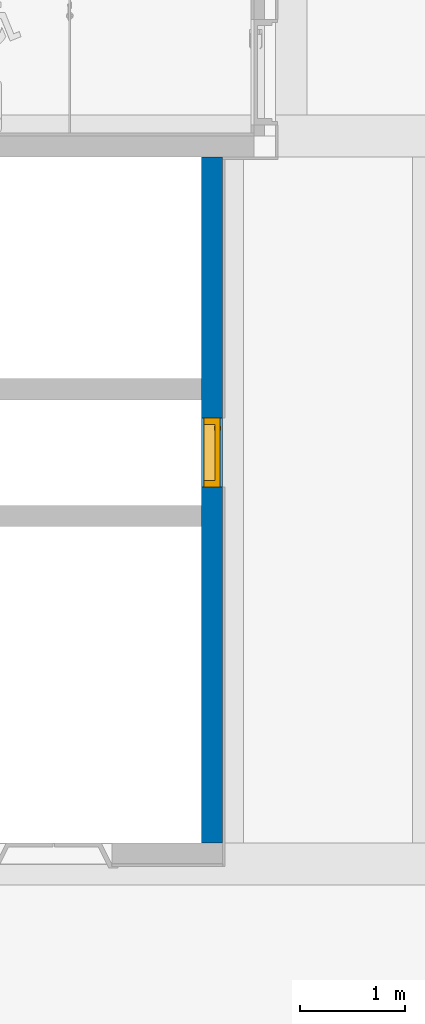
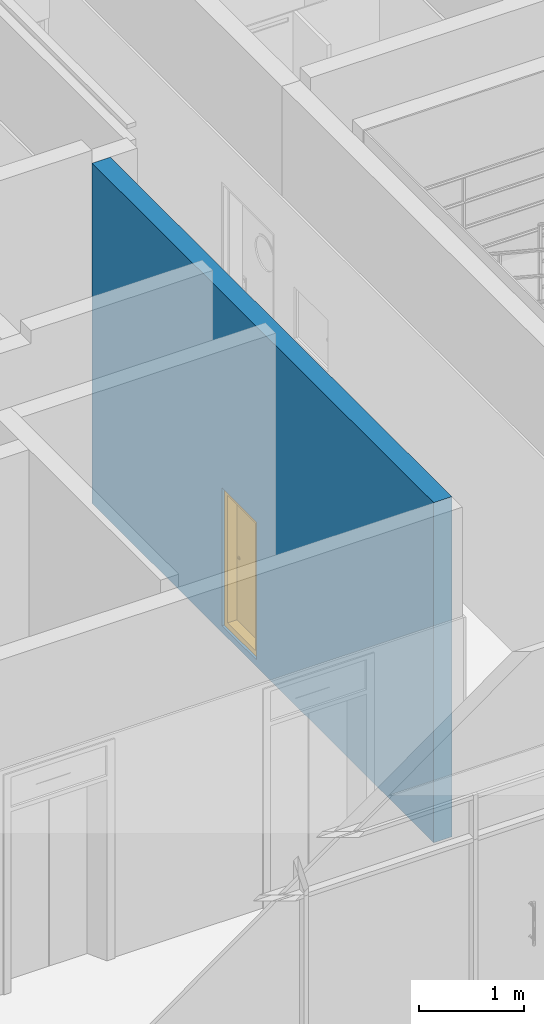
# One storey, part 62 of 76: 1 door, 1 wall, 1 opening.
"""IFC2X3 building model written with IfcOpenShell, lengths in millimetres."""

from ifc_helpers import new_model, entity, si_unit, converted_unit, derived_unit, direction, frame, frame_2d, origin, place, context, subcontext, project, spatial, rectangle, extrude, faceted_brep, source, transform, mapped, material, material_list, layer, layer_set, type_object, type_shapes, element, fill, save


model = new_model("IFC2X3")

# Units and contexts
model_context = context("Model", 3, precision=0.01, world=origin(), true_north=direction((6.123031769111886e-17, 1.0)))
body_context = subcontext(model_context, "Body", "Model", "MODEL_VIEW")
ifc_project = project(units=[si_unit("LENGTHUNIT", "METRE", prefix="MILLI"), si_unit("AREAUNIT", "SQUARE_METRE"), si_unit("VOLUMEUNIT", "CUBIC_METRE"), converted_unit("PLANEANGLEUNIT", "DEGREE", entity("IfcRatioMeasure", 0.017453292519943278), si_unit("PLANEANGLEUNIT", "RADIAN"), dimensions=[0, 0, 0, 0, 0, 0, 0]), si_unit("MASSUNIT", "GRAM", prefix="KILO"), derived_unit("MASSDENSITYUNIT", [(si_unit("MASSUNIT", "GRAM", prefix="KILO"), 1), (si_unit("LENGTHUNIT", "METRE"), -3)]), derived_unit("MOMENTOFINERTIAUNIT", [(si_unit("LENGTHUNIT", "METRE"), 4)]), si_unit("TIMEUNIT", "SECOND"), si_unit("FREQUENCYUNIT", "HERTZ"), si_unit("THERMODYNAMICTEMPERATUREUNIT", "DEGREE_CELSIUS"), derived_unit("THERMALTRANSMITTANCEUNIT", [(si_unit("MASSUNIT", "GRAM", prefix="KILO"), 1), (si_unit("THERMODYNAMICTEMPERATUREUNIT", "KELVIN"), -1), (si_unit("TIMEUNIT", "SECOND"), -3)]), derived_unit("VOLUMETRICFLOWRATEUNIT", [(si_unit("LENGTHUNIT", "METRE"), 3), (si_unit("TIMEUNIT", "SECOND"), -1)]), derived_unit("MASSFLOWRATEUNIT", [(si_unit("MASSUNIT", "GRAM", prefix="KILO"), 1), (si_unit("TIMEUNIT", "SECOND"), -1)]), derived_unit("ROTATIONALFREQUENCYUNIT", [(si_unit("TIMEUNIT", "SECOND"), -1)]), si_unit("ELECTRICCURRENTUNIT", "AMPERE"), si_unit("ELECTRICVOLTAGEUNIT", "VOLT"), si_unit("POWERUNIT", "WATT"), si_unit("FORCEUNIT", "NEWTON", prefix="KILO"), si_unit("ILLUMINANCEUNIT", "LUX"), si_unit("LUMINOUSFLUXUNIT", "LUMEN"), si_unit("LUMINOUSINTENSITYUNIT", "CANDELA"), derived_unit("USERDEFINED", [(si_unit("MASSUNIT", "GRAM", prefix="KILO"), -1), (si_unit("LENGTHUNIT", "METRE"), -2), (si_unit("TIMEUNIT", "SECOND"), 3), (si_unit("LUMINOUSFLUXUNIT", "LUMEN"), 1)]), derived_unit("SOUNDPOWERUNIT", [(si_unit("MASSUNIT", "GRAM", prefix="KILO"), 1), (si_unit("LENGTHUNIT", "METRE"), 2), (si_unit("TIMEUNIT", "SECOND"), -3)]), derived_unit("SOUNDPRESSUREUNIT", [(si_unit("MASSUNIT", "GRAM", prefix="KILO"), 1), (si_unit("LENGTHUNIT", "METRE"), -1), (si_unit("TIMEUNIT", "SECOND"), -2)]), derived_unit("LINEARVELOCITYUNIT", [(si_unit("LENGTHUNIT", "METRE"), 1), (si_unit("TIMEUNIT", "SECOND"), -1)]), si_unit("PRESSUREUNIT", "PASCAL"), derived_unit("USERDEFINED", [(si_unit("LENGTHUNIT", "METRE"), -2), (si_unit("MASSUNIT", "GRAM", prefix="KILO"), 1), (si_unit("TIMEUNIT", "SECOND"), -2)]), derived_unit("LINEARFORCEUNIT", [(si_unit("MASSUNIT", "GRAM", prefix="KILO"), 1), (si_unit("LENGTHUNIT", "METRE"), 1), (si_unit("TIMEUNIT", "SECOND"), -2), (si_unit("LENGTHUNIT", "METRE"), -1)]), derived_unit("PLANARFORCEUNIT", [(si_unit("MASSUNIT", "GRAM", prefix="KILO"), 1), (si_unit("LENGTHUNIT", "METRE"), 1), (si_unit("TIMEUNIT", "SECOND"), -2), (si_unit("LENGTHUNIT", "METRE"), -2)])], contexts=[model_context])

# Site, building, storey
site_placement = place(None, frame((-14167.972527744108, -657.2125860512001, 0.0)))
site = spatial("IfcSite", under=ifc_project, at=site_placement, Name="Default", CompositionType="ELEMENT")
building_placement = place(site_placement, origin())
building = spatial("IfcBuilding", under=site, at=building_placement, Name="Sample Building", CompositionType="ELEMENT")
storey_placement = place(building_placement, frame((0.0, 0.0, 9300.0)))
storey = spatial("IfcBuildingStorey", under=building, at=storey_placement, Name="지상 3층", CompositionType="ELEMENT", Elevation=9300.000000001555)

# Wall, opening, door
ifc_material_1 = material(Name="KBIMS-콘크리트")
ifc_layer = layer(ifc_material_1, 200.0)
ifc_layer_set = layer_set([ifc_layer], Name="기본 벽:WA111-철근콘크리트구조 벽 200mm_CW1")
wall_type = type_object("IfcWallType", Name="기본 벽:WA111-철근콘크리트구조 벽 200mm_CW1", PredefinedType="STANDARD", material=ifc_layer_set)
wall_placement = place(storey_placement, frame((35867.97249113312, 22257.212311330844, -2.297844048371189e-09), z_axis=(0.0, 0.0, 1.0), x_axis=(0.0, -1.0, 0.0)))
wall = element("IfcWall", 1, at=wall_placement, inside=storey, type_object=wall_type, Name="기본 벽:WA111-철근콘크리트구조 벽 200mm_CW1", ObjectType="기본 벽:WA111-철근콘크리트구조 벽 200mm_CW1", context=body_context, shape_type="Brep", body=[
    faceted_brep([(3125.0, -100.0, 1680.0), (3125.0, -100.0, 80.0), (2475.0, -100.0, 80.0), (2475.0, -100.0, 1680.0), (0.0, -100.0, 0.0), (2100.0, -100.0, 0.0), (2300.0, -100.0, 0.0), (3300.0, -100.0, 0.0), (3500.0, -100.0, 0.0), (6499.909364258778, -100.0, 0.0), (6499.909364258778, -100.0, 3950.0), (0.0, -100.0, 3950.0), (6499.909364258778, 100.0, 0.0), (0.0, 100.0, 0.0), (0.0, 100.0, 3950.0), (6499.909364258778, 100.0, 3950.0), (6499.909364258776, 100.0, 2680.0), (24.0, 100.0, 2680.0), (24.0, 100.0, 80.0), (6499.909364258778, 100.0, 80.0), (6499.909364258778, 99.73898654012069, 80.0), (6499.909364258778, 99.73898654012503, 2680.0), (3125.0, 99.73898654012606, 1680.0), (3125.0, 99.73898654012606, 80.0), (2475.0, 99.73898654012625, 1680.0), (2475.0, 99.73898654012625, 80.0), (24.0, 99.73898654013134, 80.0), (24.0, 99.73898654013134, 2680.0)], [[[0, 1, 2, 3], [4, 5, 6, 7, 8, 9, 10, 11]], [[12, 13, 14, 15, 16, 17, 18, 19]], [[9, 8, 7, 6, 5, 4, 13, 12]], [[9, 12, 19, 20, 21, 16, 15, 10]], [[13, 4, 11, 14]], [[15, 14, 11, 10]], [[1, 0, 22, 23]], [[0, 3, 24, 22]], [[3, 2, 25, 24]], [[2, 1, 23, 20, 19, 18, 26, 25]], [[26, 27, 21, 20, 23, 22, 24, 25]], [[27, 26, 18, 17]], [[21, 27, 17, 16]]], outer=[[False, True], [True], [True], [True], [True], [True], [True], [True], [True], [True], [True], [True], [True]]),
])
opening_placement = place(wall_placement, frame((2475.0, -100.0, 80.0)))
opening = element("IfcOpeningElement", 2, at=opening_placement, cuts=wall, Name="DR872-샤프트 점검구(스테인리스 스틸):DR872-샤프트 점검구(스테인리스 스틸)_650x1600:1", ObjectType="Opening", context=body_context, shape_type="SweptSolid", body=[
    extrude(rectangle(XDim=1600.0, YDim=649.9999999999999, at=frame_2d((800.0000000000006, 324.99999999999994), x_axis=(1.0, 0.0))), frame((0.0, 0.0, 0.0), z_axis=(0.0, 1.0, 0.0), x_axis=(0.0, 0.0, 1.0)), (0.0, 0.0, 1.0), 200.0),
])
ifc_material_2 = material(Name="KBIMS-스테인리스 스틸_도금")
ifc_material_list = material_list([ifc_material_2, ifc_material_2, ifc_material_2, ifc_material_2])
door_style = type_object("IfcDoorStyle", Name="DR872-샤프트 점검구(스테인리스 스틸):DR872-샤프트 점검구(스테인리스 스틸)_650x1600", ConstructionType="NOTDEFINED", OperationType="SINGLE_SWING_LEFT", ParameterTakesPrecedence=False, Sizeable=False, material=ifc_material_list)
shared_shape = source(origin(), body_context, "Body", "Brep", [
    faceted_brep([(105.0, 125.0, 782.6794919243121), (109.14213562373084, 125.0, 785.85786437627), (102.50000000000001, 125.0, 787.0096189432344), (98.88228567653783, 125.0, 785.5111126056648), (100.17638090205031, 125.0, 780.6814834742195), (105.60660171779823, 125.0, 789.3933982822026), (112.32050807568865, 125.0, 790.0), (107.99038105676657, 125.0, 792.5000000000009), (109.488887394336, 125.0, 796.1177143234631), (114.31851652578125, 125.0, 794.8236190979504), (110.0, 125.0, 800.0), (115.0, 125.0, 800.0), (109.48888739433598, 125.0, 803.8822856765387), (114.31851652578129, 125.0, 805.1763809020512), (107.99038105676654, 125.0, 807.5000000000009), (112.32050807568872, 125.0, 810.0), (105.60660171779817, 125.0, 810.6066017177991), (109.14213562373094, 125.0, 814.1421356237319), (102.49999999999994, 125.0, 812.9903810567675), (105.0, 125.0, 817.3205080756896), (98.88228567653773, 125.0, 814.4888873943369), (100.17638090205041, 125.0, 819.3185165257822), (95.0, 125.0, 815.0), (95.0, 125.0, 820.0), (91.11771432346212, 125.0, 814.4888873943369), (89.8236190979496, 125.0, 819.3185165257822), (87.49999999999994, 125.0, 812.9903810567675), (85.0, 125.0, 817.3205080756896), (84.39339828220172, 125.0, 810.6066017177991), (80.85786437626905, 125.0, 814.142135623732), (82.00961894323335, 125.0, 807.5000000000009), (77.67949192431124, 125.0, 810.0), (75.6814834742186, 125.0, 805.1763809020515), (80.51111260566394, 125.0, 803.8822856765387), (75.0, 125.0, 800.0), (80.0, 125.0, 800.0), (75.68148347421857, 125.0, 794.8236190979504), (80.51111260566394, 125.0, 796.117714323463), (77.67949192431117, 125.0, 790.0), (82.00961894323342, 125.0, 792.5000000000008), (80.85786437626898, 125.0, 785.85786437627), (84.39339828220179, 125.0, 789.3933982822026), (85.0, 125.0, 782.6794919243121), (87.50000000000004, 125.0, 787.0096189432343), (89.8236190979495, 125.0, 780.6814834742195), (91.11771432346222, 125.0, 785.5111126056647), (95.0, 125.0, 780.0), (95.0, 125.0, 785.0), (105.0, 130.0, 817.3205080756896), (109.14213562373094, 130.0, 814.1421356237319), (102.49999999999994, 130.0, 812.9903810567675), (98.88228567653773, 130.0, 814.4888873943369), (100.17638090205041, 130.0, 819.3185165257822), (105.60660171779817, 130.0, 810.6066017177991), (112.32050807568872, 130.0, 810.0), (107.99038105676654, 130.0, 807.5000000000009), (109.48888739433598, 130.0, 803.8822856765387), (114.31851652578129, 130.0, 805.1763809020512), (110.0, 130.0, 800.0), (115.0, 130.0, 800.0), (109.488887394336, 130.0, 796.1177143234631), (114.31851652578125, 130.0, 794.8236190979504), (107.99038105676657, 130.0, 792.5000000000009), (112.32050807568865, 130.0, 790.0), (105.60660171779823, 130.0, 789.3933982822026), (109.14213562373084, 130.0, 785.85786437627), (102.50000000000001, 130.0, 787.0096189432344), (105.0, 130.0, 782.6794919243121), (98.88228567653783, 130.0, 785.5111126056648), (100.17638090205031, 130.0, 780.6814834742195), (95.0, 130.0, 785.0), (95.0, 130.0, 780.0), (91.11771432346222, 130.0, 785.5111126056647), (89.8236190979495, 130.0, 780.6814834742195), (87.50000000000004, 130.0, 787.0096189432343), (85.0, 130.0, 782.6794919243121), (84.39339828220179, 130.0, 789.3933982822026), (80.85786437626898, 130.0, 785.85786437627), (82.00961894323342, 130.0, 792.5000000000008), (77.67949192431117, 130.0, 790.0), (75.68148347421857, 130.0, 794.8236190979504), (80.51111260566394, 130.0, 796.117714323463), (75.0, 130.0, 800.0), (80.0, 130.0, 800.0), (75.6814834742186, 130.0, 805.1763809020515), (80.51111260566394, 130.0, 803.8822856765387), (77.67949192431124, 130.0, 810.0), (82.00961894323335, 130.0, 807.5000000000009), (80.85786437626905, 130.0, 814.142135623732), (84.39339828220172, 130.0, 810.6066017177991), (85.0, 130.0, 817.3205080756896), (87.49999999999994, 130.0, 812.9903810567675), (89.8236190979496, 130.0, 819.3185165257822), (91.11771432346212, 130.0, 814.4888873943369), (95.0, 130.0, 820.0), (95.0, 130.0, 815.0)], [[[0, 1, 2]], [[0, 2, 3]], [[3, 4, 0]], [[2, 1, 5]], [[6, 5, 1]], [[7, 5, 6]], [[8, 7, 6]], [[8, 6, 9]], [[8, 9, 10]], [[10, 9, 11]], [[12, 10, 11]], [[12, 11, 13]], [[14, 12, 13]], [[14, 13, 15]], [[16, 14, 15]], [[15, 17, 16]], [[17, 18, 16]], [[18, 17, 19]], [[18, 19, 20]], [[21, 20, 19]], [[20, 21, 22]], [[22, 21, 23]], [[23, 24, 22]], [[24, 23, 25]], [[24, 25, 26]], [[27, 26, 25]], [[27, 28, 26]], [[27, 29, 28]], [[30, 28, 29]], [[31, 30, 29]], [[32, 30, 31]], [[33, 30, 32]], [[33, 32, 34]], [[34, 35, 33]], [[36, 35, 34]], [[36, 37, 35]], [[37, 36, 38]], [[39, 37, 38]], [[39, 38, 40]], [[39, 40, 41]], [[40, 42, 41]], [[41, 42, 43]], [[43, 42, 44]], [[44, 45, 43]], [[46, 45, 44]], [[4, 47, 46]], [[45, 46, 47]], [[4, 3, 47]], [[48, 49, 50]], [[48, 50, 51]], [[51, 52, 48]], [[50, 49, 53]], [[54, 53, 49]], [[55, 53, 54]], [[56, 55, 54]], [[56, 54, 57]], [[56, 57, 58]], [[58, 57, 59]], [[60, 58, 59]], [[60, 59, 61]], [[62, 60, 61]], [[62, 61, 63]], [[64, 62, 63]], [[63, 65, 64]], [[65, 66, 64]], [[66, 65, 67]], [[66, 67, 68]], [[69, 68, 67]], [[68, 69, 70]], [[70, 69, 71]], [[71, 72, 70]], [[72, 71, 73]], [[72, 73, 74]], [[75, 74, 73]], [[75, 76, 74]], [[75, 77, 76]], [[78, 76, 77]], [[79, 78, 77]], [[80, 78, 79]], [[81, 78, 80]], [[81, 80, 82]], [[82, 83, 81]], [[84, 83, 82]], [[84, 85, 83]], [[85, 84, 86]], [[87, 85, 86]], [[87, 86, 88]], [[87, 88, 89]], [[88, 90, 89]], [[89, 90, 91]], [[91, 90, 92]], [[92, 93, 91]], [[94, 93, 92]], [[52, 95, 94]], [[93, 94, 95]], [[52, 51, 95]], [[10, 58, 60, 8]], [[8, 60, 62, 7]], [[2, 5, 64, 66]], [[62, 64, 5, 7]], [[3, 2, 66, 68]], [[70, 47, 3, 68]], [[45, 72, 74, 43]], [[43, 74, 76, 41]], [[37, 39, 78, 81]], [[76, 78, 39, 41]], [[35, 37, 81, 83]], [[45, 47, 70, 72]], [[35, 83, 85, 33]], [[33, 85, 87, 30]], [[26, 28, 89, 91]], [[87, 89, 28, 30]], [[24, 26, 91, 93]], [[95, 22, 24, 93]], [[20, 51, 50, 18]], [[18, 50, 53, 16]], [[12, 14, 55, 56]], [[53, 55, 14, 16]], [[10, 12, 56, 58]], [[20, 22, 95, 51]], [[57, 13, 11, 59]], [[54, 15, 13, 57]], [[19, 17, 49, 48]], [[54, 49, 17, 15]], [[21, 19, 48, 52]], [[23, 21, 52, 94]], [[92, 25, 23, 94]], [[90, 27, 25, 92]], [[31, 29, 88, 86]], [[90, 88, 29, 27]], [[32, 31, 86, 84]], [[34, 32, 84, 82]], [[80, 36, 34, 82]], [[79, 38, 36, 80]], [[42, 40, 77, 75]], [[79, 77, 40, 38]], [[44, 42, 75, 73]], [[46, 44, 73, 71]], [[69, 4, 46, 71]], [[67, 0, 4, 69]], [[6, 1, 65, 63]], [[67, 65, 1, 0]], [[9, 6, 63, 61]], [[11, 9, 61, 59]]]),
    faceted_brep([(85.0, 180.0, 782.6794919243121), (80.85786437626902, 180.0, 785.85786437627), (87.4999999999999, 180.0, 787.0096189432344), (91.11771432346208, 180.0, 785.5111126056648), (89.82361909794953, 180.0, 780.6814834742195), (84.39339828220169, 180.0, 789.3933982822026), (77.6794919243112, 180.0, 790.0), (82.00961894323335, 180.0, 792.5000000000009), (80.51111260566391, 180.0, 796.1177143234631), (75.6814834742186, 180.0, 794.8236190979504), (80.0, 180.0, 800.0), (75.0, 180.0, 800.0), (80.51111260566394, 180.0, 803.8822856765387), (75.68148347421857, 180.0, 805.1763809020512), (82.00961894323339, 180.0, 807.5000000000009), (77.67949192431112, 180.0, 810.0), (84.39339828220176, 180.0, 810.6066017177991), (80.85786437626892, 180.0, 814.1421356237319), (87.49999999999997, 180.0, 812.9903810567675), (85.0, 180.0, 817.3205080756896), (91.11771432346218, 180.0, 814.4888873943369), (89.82361909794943, 180.0, 819.3185165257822), (95.0, 180.0, 815.0), (95.0, 180.0, 820.0), (98.8822856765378, 180.0, 814.4888873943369), (100.17638090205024, 180.0, 819.3185165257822), (102.49999999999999, 180.0, 812.9903810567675), (105.0, 180.0, 817.3205080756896), (105.6066017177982, 180.0, 810.6066017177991), (109.1421356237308, 180.0, 814.142135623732), (107.99038105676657, 180.0, 807.5000000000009), (112.32050807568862, 180.0, 810.0), (114.31851652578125, 180.0, 805.1763809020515), (109.48888739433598, 180.0, 803.8822856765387), (115.0, 180.0, 800.0), (110.0, 180.0, 800.0), (114.31851652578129, 180.0, 794.8236190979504), (109.48888739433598, 180.0, 796.117714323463), (112.32050807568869, 180.0, 790.0), (107.9903810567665, 180.0, 792.5000000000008), (109.14213562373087, 180.0, 785.85786437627), (105.60660171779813, 180.0, 789.3933982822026), (105.0, 180.0, 782.6794919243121), (102.49999999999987, 180.0, 787.0096189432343), (100.17638090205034, 180.0, 780.6814834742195), (98.8822856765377, 180.0, 785.5111126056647), (95.0, 180.0, 780.0), (95.0, 180.0, 785.0), (85.0, 175.0, 817.3205080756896), (80.85786437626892, 175.0, 814.1421356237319), (87.49999999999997, 175.0, 812.9903810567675), (91.11771432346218, 175.0, 814.4888873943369), (89.82361909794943, 175.0, 819.3185165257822), (84.39339828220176, 175.0, 810.6066017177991), (77.67949192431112, 175.0, 810.0), (82.00961894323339, 175.0, 807.5000000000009), (80.51111260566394, 175.0, 803.8822856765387), (75.68148347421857, 175.0, 805.1763809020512), (80.0, 175.0, 800.0), (75.0, 175.0, 800.0), (80.51111260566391, 175.0, 796.1177143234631), (75.6814834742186, 175.0, 794.8236190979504), (82.00961894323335, 175.0, 792.5000000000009), (77.6794919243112, 175.0, 790.0), (84.39339828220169, 175.0, 789.3933982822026), (80.85786437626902, 175.0, 785.85786437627), (87.4999999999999, 175.0, 787.0096189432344), (85.0, 175.0, 782.6794919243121), (91.11771432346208, 175.0, 785.5111126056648), (89.82361909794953, 175.0, 780.6814834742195), (95.0, 175.0, 785.0), (95.0, 175.0, 780.0), (98.8822856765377, 175.0, 785.5111126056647), (100.17638090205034, 175.0, 780.6814834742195), (102.49999999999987, 175.0, 787.0096189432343), (105.0, 175.0, 782.6794919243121), (105.60660171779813, 175.0, 789.3933982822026), (109.14213562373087, 175.0, 785.85786437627), (107.9903810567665, 175.0, 792.5000000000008), (112.32050807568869, 175.0, 790.0), (114.31851652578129, 175.0, 794.8236190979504), (109.48888739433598, 175.0, 796.117714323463), (115.0, 175.0, 800.0), (110.0, 175.0, 800.0), (114.31851652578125, 175.0, 805.1763809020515), (109.48888739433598, 175.0, 803.8822856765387), (112.32050807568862, 175.0, 810.0), (107.99038105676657, 175.0, 807.5000000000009), (109.1421356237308, 175.0, 814.142135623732), (105.6066017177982, 175.0, 810.6066017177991), (105.0, 175.0, 817.3205080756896), (102.49999999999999, 175.0, 812.9903810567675), (100.17638090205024, 175.0, 819.3185165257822), (98.8822856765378, 175.0, 814.4888873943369), (95.0, 175.0, 820.0), (95.0, 175.0, 815.0)], [[[0, 1, 2]], [[0, 2, 3]], [[3, 4, 0]], [[2, 1, 5]], [[6, 5, 1]], [[7, 5, 6]], [[8, 7, 6]], [[8, 6, 9]], [[8, 9, 10]], [[10, 9, 11]], [[12, 10, 11]], [[12, 11, 13]], [[14, 12, 13]], [[14, 13, 15]], [[16, 14, 15]], [[15, 17, 16]], [[17, 18, 16]], [[18, 17, 19]], [[18, 19, 20]], [[21, 20, 19]], [[20, 21, 22]], [[22, 21, 23]], [[23, 24, 22]], [[24, 23, 25]], [[24, 25, 26]], [[27, 26, 25]], [[27, 28, 26]], [[27, 29, 28]], [[30, 28, 29]], [[31, 30, 29]], [[32, 30, 31]], [[33, 30, 32]], [[33, 32, 34]], [[34, 35, 33]], [[36, 35, 34]], [[36, 37, 35]], [[37, 36, 38]], [[39, 37, 38]], [[39, 38, 40]], [[39, 40, 41]], [[40, 42, 41]], [[41, 42, 43]], [[43, 42, 44]], [[44, 45, 43]], [[46, 45, 44]], [[4, 47, 46]], [[45, 46, 47]], [[4, 3, 47]], [[48, 49, 50]], [[48, 50, 51]], [[51, 52, 48]], [[50, 49, 53]], [[54, 53, 49]], [[55, 53, 54]], [[56, 55, 54]], [[56, 54, 57]], [[56, 57, 58]], [[58, 57, 59]], [[60, 58, 59]], [[60, 59, 61]], [[62, 60, 61]], [[62, 61, 63]], [[64, 62, 63]], [[63, 65, 64]], [[65, 66, 64]], [[66, 65, 67]], [[66, 67, 68]], [[69, 68, 67]], [[68, 69, 70]], [[70, 69, 71]], [[71, 72, 70]], [[72, 71, 73]], [[72, 73, 74]], [[75, 74, 73]], [[75, 76, 74]], [[75, 77, 76]], [[78, 76, 77]], [[79, 78, 77]], [[80, 78, 79]], [[81, 78, 80]], [[81, 80, 82]], [[82, 83, 81]], [[84, 83, 82]], [[84, 85, 83]], [[85, 84, 86]], [[87, 85, 86]], [[87, 86, 88]], [[87, 88, 89]], [[88, 90, 89]], [[89, 90, 91]], [[91, 90, 92]], [[92, 93, 91]], [[94, 93, 92]], [[52, 95, 94]], [[93, 94, 95]], [[52, 51, 95]], [[35, 83, 85, 33]], [[33, 85, 87, 30]], [[26, 28, 89, 91]], [[87, 89, 28, 30]], [[24, 26, 91, 93]], [[95, 22, 24, 93]], [[20, 51, 50, 18]], [[18, 50, 53, 16]], [[12, 14, 55, 56]], [[53, 55, 14, 16]], [[10, 12, 56, 58]], [[20, 22, 95, 51]], [[10, 58, 60, 8]], [[8, 60, 62, 7]], [[2, 5, 64, 66]], [[62, 64, 5, 7]], [[3, 2, 66, 68]], [[70, 47, 3, 68]], [[45, 72, 74, 43]], [[43, 74, 76, 41]], [[37, 39, 78, 81]], [[76, 78, 39, 41]], [[35, 37, 81, 83]], [[45, 47, 70, 72]], [[80, 36, 34, 82]], [[79, 38, 36, 80]], [[42, 40, 77, 75]], [[79, 77, 40, 38]], [[44, 42, 75, 73]], [[46, 44, 73, 71]], [[69, 4, 46, 71]], [[67, 0, 4, 69]], [[6, 1, 65, 63]], [[67, 65, 1, 0]], [[9, 6, 63, 61]], [[11, 9, 61, 59]], [[57, 13, 11, 59]], [[54, 15, 13, 57]], [[19, 17, 49, 48]], [[54, 49, 17, 15]], [[21, 19, 48, 52]], [[23, 21, 52, 94]], [[92, 25, 23, 94]], [[90, 27, 25, 92]], [[31, 29, 88, 86]], [[90, 88, 29, 27]], [[32, 31, 86, 84]], [[34, 32, 84, 82]]]),
    faceted_brep([(620.0, 175.0, 1570.0), (30.0, 175.0, 1570.0), (30.0, 130.0, 1570.0), (620.0, 130.0, 1570.0), (620.0, 175.0, 30.0), (620.0, 130.0, 30.0), (30.0, 130.0, 30.0), (30.0, 175.0, 30.0)], [[[0, 1, 2, 3]], [[4, 5, 6, 7]], [[1, 0, 4, 7]], [[2, 1, 7, 6]], [[3, 2, 6, 5]], [[0, 3, 5, 4]]]),
    faceted_brep([(30.0, 130.0, 1570.0), (30.0, 175.0, 1570.0), (620.0, 175.0, 1570.0), (620.0, 130.0, 1570.0), (60.0, 25.0, 1540.0), (60.0, 130.0, 1540.0), (590.0, 130.0, 1540.0), (590.0, 25.0, 1540.0), (0.0, 175.0, 1600.0), (0.0, 25.0, 1600.0), (650.0, 25.0, 1600.0), (650.0, 175.0, 1600.0), (620.0, 175.0, 30.0), (620.0, 130.0, 30.0), (590.0, 130.0, 60.0), (590.0, 25.0, 60.0), (650.0, 25.0, 0.0), (650.0, 175.0, 0.0), (30.0, 175.0, 30.0), (30.0, 130.0, 30.0), (60.0, 130.0, 60.0), (60.0, 25.0, 60.0), (0.0, 25.0, 0.0), (0.0, 175.0, 0.0)], [[[0, 1, 2, 3]], [[4, 5, 6, 7]], [[8, 9, 10, 11]], [[3, 2, 12, 13]], [[7, 6, 14, 15]], [[11, 10, 16, 17]], [[13, 12, 18, 19]], [[15, 14, 20, 21]], [[17, 16, 22, 23]], [[19, 18, 1, 0]], [[3, 13, 19, 0], [5, 20, 14, 6]], [[21, 20, 5, 4]], [[7, 15, 21, 4], [9, 22, 16, 10]], [[23, 22, 9, 8]], [[11, 17, 23, 8], [1, 18, 12, 2]]], outer=[[True], [True], [True], [True], [True], [True], [True], [True], [True], [True], [True, False], [True], [False, True], [True], [True, False]]),
])
type_shapes(door_style, [shared_shape])
door_placement = place(opening_placement, frame((2.5062981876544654e-06, 0.0, 2.2973836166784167e-09)))
door = element("IfcDoor", 3, at=door_placement, inside=storey, type_object=door_style, material=ifc_material_2, Name="DR872-샤프트 점검구(스테인리스 스틸):DR872-샤프트 점검구(스테인리스 스틸)_650x1600", ObjectType="DR872-샤프트 점검구(스테인리스 스틸):DR872-샤프트 점검구(스테인리스 스틸)_650x1600", OverallHeight=1600.0000000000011, OverallWidth=649.9999999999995, context=body_context, shape_type="MappedRepresentation", body=[
    mapped(shared_shape, transform((0.0, 0.0, 0.0), scale=1.0)),
])
fill(opening, door)

save(model, "model.ifc")
